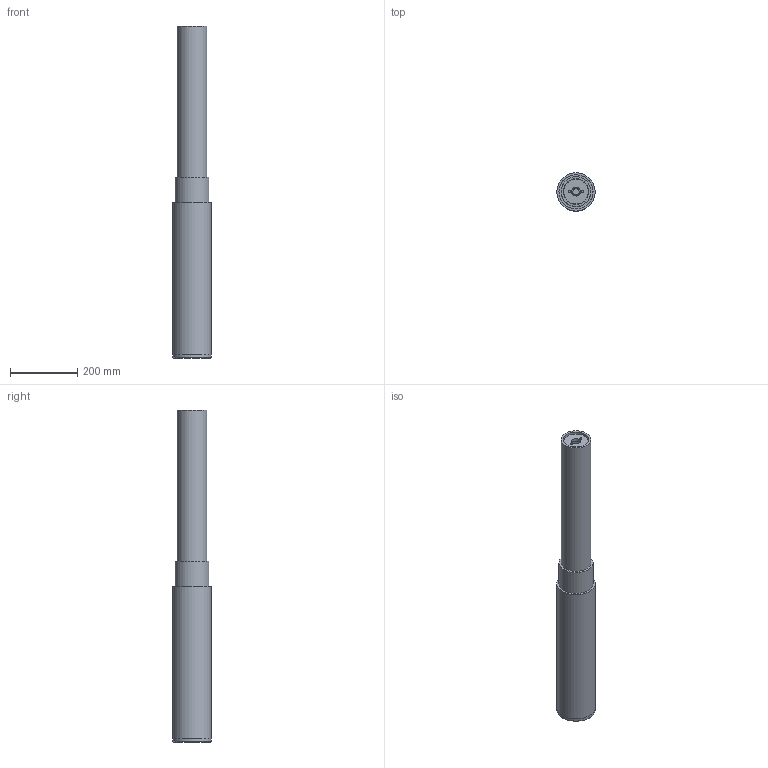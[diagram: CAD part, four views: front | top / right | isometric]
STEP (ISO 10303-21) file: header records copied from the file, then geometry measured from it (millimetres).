
FILE_DESCRIPTION (( 'STEP AP214' ), '1' );
FILE_NAME ('OZEXT1.STEP', '2024-10-16T13:52:57', ( '' ), ( '' ), 'SwSTEP 2.0', 'SolidWorks 2023', '' );
FILE_SCHEMA (( 'AUTOMOTIVE_DESIGN' ));
Length unit declared in the file: inch
Products named in the file (9): OZEXT1; DC10PC7250B; DC12EX1240A; DC10PC7100; DC12EX1210A; DC12EX1000A; DC12EX1200A; DC12EX1220A; DC12EX1230A
Assembly tree (8 placements, depth 3):
  OZEXT1
    DC12EX1000A
      DC12EX1200A
      DC12EX1210A
      DC12EX1220A
      DC12EX1230A
      DC12EX1240A
      DC10PC7250B
    DC10PC7100
Bounding box: 114.3 x 114.3 x 990.6 mm (x, y, z)
Volume: 2519842.9 mm3; surface area: 810258.3 mm2
Topology: 7 solids, 7 shells, 40 faces, 69 edges, 45 vertices
Faces by surface type: cylinder 20, plane 16, cone 4
Full cylindrical faces by diameter (mm): 6.35 x2, 6.604 x3, 18.669 x1, 19.05 x1, 25.4 x1, 26.67 x1, 73.66 x1, 76.2 x1, 88.9 x3, 91.948 x1, 101.143 x1, 101.6 x2, 114.3 x2
Entity records: 1199 total; most frequent: DIRECTION 192, CARTESIAN_POINT 140, AXIS2_PLACEMENT_3D 96, EDGE_LOOP 88, ORIENTED_EDGE 88, FACE_OUTER_BOUND 60, VERTEX_POINT 44, CIRCLE 44
